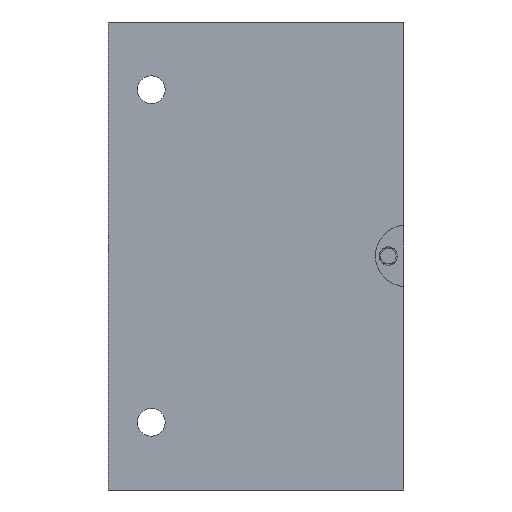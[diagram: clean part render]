
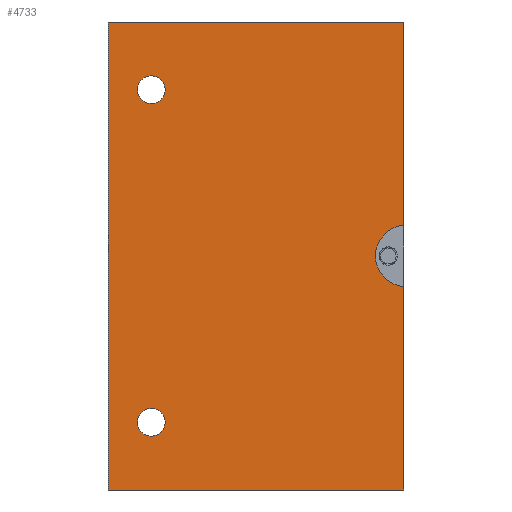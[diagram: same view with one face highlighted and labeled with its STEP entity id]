
A CAD part, front view. The second image highlights one B-rep face of the part: STEP entity #4733.
In plain terms, the highlighted planar face has unit normal (0, -1, 0).
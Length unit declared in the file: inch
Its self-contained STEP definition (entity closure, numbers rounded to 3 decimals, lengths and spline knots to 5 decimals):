
#137=PLANE('',#5066);
#267=LINE('',#6891,#535);
#268=LINE('',#6893,#536);
#269=LINE('',#6895,#537);
#270=LINE('',#6897,#538);
#271=LINE('',#6898,#539);
#535=VECTOR('',#5566,2.06304);
#536=VECTOR('',#5567,3.);
#537=VECTOR('',#5568,4.75);
#538=VECTOR('',#5569,3.);
#539=VECTOR('',#5570,2.06404);
#809=CIRCLE('',#5064,0.3125);
#810=CIRCLE('',#5067,0.14063);
#811=CIRCLE('',#5068,0.14063);
#1027=FACE_BOUND('',#1528,.T.);
#1028=FACE_BOUND('',#1529,.T.);
#1241=FACE_OUTER_BOUND('',#1527,.T.);
#1527=EDGE_LOOP('',(#3249,#3250,#3251,#3252,#3253,#3254));
#1528=EDGE_LOOP('',(#3255));
#1529=EDGE_LOOP('',(#3256));
#2159=VERTEX_POINT('',#6874);
#2160=VERTEX_POINT('',#6876);
#2165=VERTEX_POINT('',#6890);
#2166=VERTEX_POINT('',#6892);
#2167=VERTEX_POINT('',#6894);
#2168=VERTEX_POINT('',#6896);
#2169=VERTEX_POINT('',#6899);
#2170=VERTEX_POINT('',#6901);
#2616=EDGE_CURVE('',#2160,#2159,#809,.T.);
#2623=EDGE_CURVE('',#2165,#2159,#267,.T.);
#2624=EDGE_CURVE('',#2165,#2166,#268,.T.);
#2625=EDGE_CURVE('',#2166,#2167,#269,.T.);
#2626=EDGE_CURVE('',#2167,#2168,#270,.T.);
#2627=EDGE_CURVE('',#2160,#2168,#271,.T.);
#2628=EDGE_CURVE('',#2169,#2169,#810,.T.);
#2629=EDGE_CURVE('',#2170,#2170,#811,.T.);
#3249=ORIENTED_EDGE('',*,*,#2616,.T.);
#3250=ORIENTED_EDGE('',*,*,#2623,.F.);
#3251=ORIENTED_EDGE('',*,*,#2624,.T.);
#3252=ORIENTED_EDGE('',*,*,#2625,.T.);
#3253=ORIENTED_EDGE('',*,*,#2626,.T.);
#3254=ORIENTED_EDGE('',*,*,#2627,.F.);
#3255=ORIENTED_EDGE('',*,*,#2628,.T.);
#3256=ORIENTED_EDGE('',*,*,#2629,.T.);
#4733=ADVANCED_FACE('',(#1241,#1027,#1028),#137,.T.);
#5064=AXIS2_PLACEMENT_3D('',#6877,#5554,#5555);
#5066=AXIS2_PLACEMENT_3D('',#6889,#5564,#5565);
#5067=AXIS2_PLACEMENT_3D('',#6900,#5571,#5572);
#5068=AXIS2_PLACEMENT_3D('',#6902,#5573,#5574);
#5554=DIRECTION('center_axis',(0.,1.,0.));
#5555=DIRECTION('ref_axis',(-0.082,0.,
0.997));
#5564=DIRECTION('center_axis',(0.,-1.,0.));
#5565=DIRECTION('ref_axis',(0.,0.,-1.));
#5566=DIRECTION('',(0.,0.,-1.));
#5567=DIRECTION('',(-1.,0.,0.));
#5568=DIRECTION('',(0.,0.,-1.));
#5569=DIRECTION('',(1.,0.,0.));
#5570=DIRECTION('',(0.,0.,-1.));
#5571=DIRECTION('center_axis',(0.,1.,0.));
#5572=DIRECTION('ref_axis',(1.,0.,0.));
#5573=DIRECTION('center_axis',(0.,1.,0.));
#5574=DIRECTION('ref_axis',(1.,0.,0.));
#6874=CARTESIAN_POINT('',(1.5,-0.75,-2.06304));
#6876=CARTESIAN_POINT('',(1.5,-0.75,-2.68596));
#6877=CARTESIAN_POINT('Origin',(1.5255,-0.75,-2.3745));
#6889=CARTESIAN_POINT('Origin',(-1.5,-0.75,0.));
#6890=CARTESIAN_POINT('',(1.5,-0.75,0.));
#6891=CARTESIAN_POINT('',(1.5,-0.75,0.));
#6892=CARTESIAN_POINT('',(-1.5,-0.75,0.));
#6893=CARTESIAN_POINT('',(1.5,-0.75,0.));
#6894=CARTESIAN_POINT('',(-1.5,-0.75,-4.75));
#6895=CARTESIAN_POINT('',(-1.5,-0.75,0.));
#6896=CARTESIAN_POINT('',(1.5,-0.75,-4.75));
#6897=CARTESIAN_POINT('',(1.5,-0.75,-4.75));
#6898=CARTESIAN_POINT('',(1.5,-0.75,0.));
#6899=CARTESIAN_POINT('',(-1.20313,-0.75,-4.0625));
#6900=CARTESIAN_POINT('Origin',(-1.0625,-0.75,-4.0625));
#6901=CARTESIAN_POINT('',(-1.20313,-0.75,-0.6875));
#6902=CARTESIAN_POINT('Origin',(-1.0625,-0.75,-0.6875));
